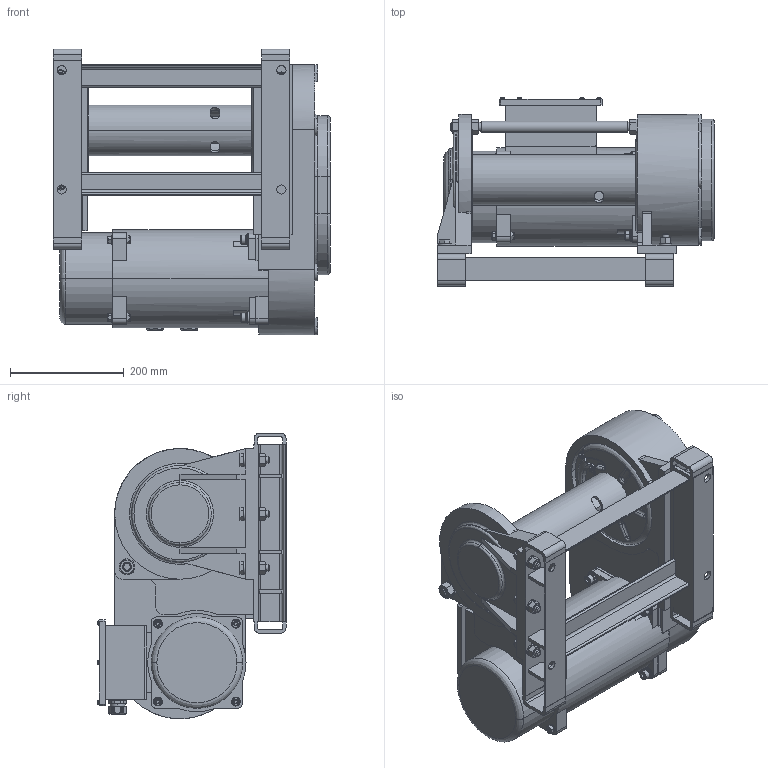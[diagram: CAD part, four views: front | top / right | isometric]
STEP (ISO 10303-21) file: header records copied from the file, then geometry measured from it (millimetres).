
FILE_DESCRIPTION( (''), '2;1');
FILE_NAME ('BMW-402.stp','2023-05-12T17:33:33',(''),(''),'spGate 19.8.2 (****-****-****-****)','','');
FILE_SCHEMA (('AUTOMOTIVE_DESIGN'));
Length unit declared in the file: millimetre
Products named in the file (2): Assembly; BMW-402-prt0
Assembly tree (1 placements, depth 2):
  Assembly
    BMW-402-prt0
Bounding box: 489 x 332.74 x 502.8 mm (x, y, z)
Volume: 25061191.4 mm3; surface area: 1570828.8 mm2
Topology: 1 solids, 1 shells, 2202 faces, 5751 edges, 3593 vertices
Faces by surface type: plane 1226, cylinder 575, bspline 321, sphere 80
Entity records: 119012 total; most frequent: CARTESIAN_POINT 21582, ORIENTED_EDGE 11350, DIRECTION 10633, COLOUR_RGB 7878, PRESENTATION_STYLE_ASSIGNMENT 7878, STYLED_ITEM 7878, EDGE_CURVE 5675, DRAUGHTING_PRE_DEFINED_CURVE_FONT 5675
